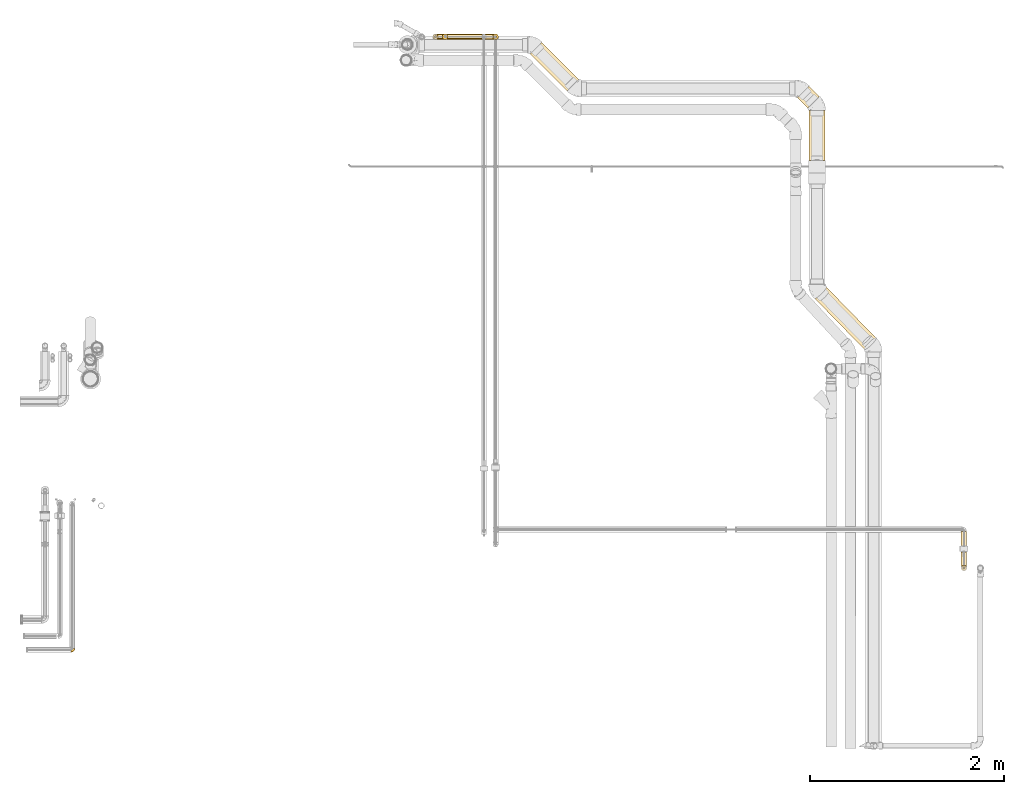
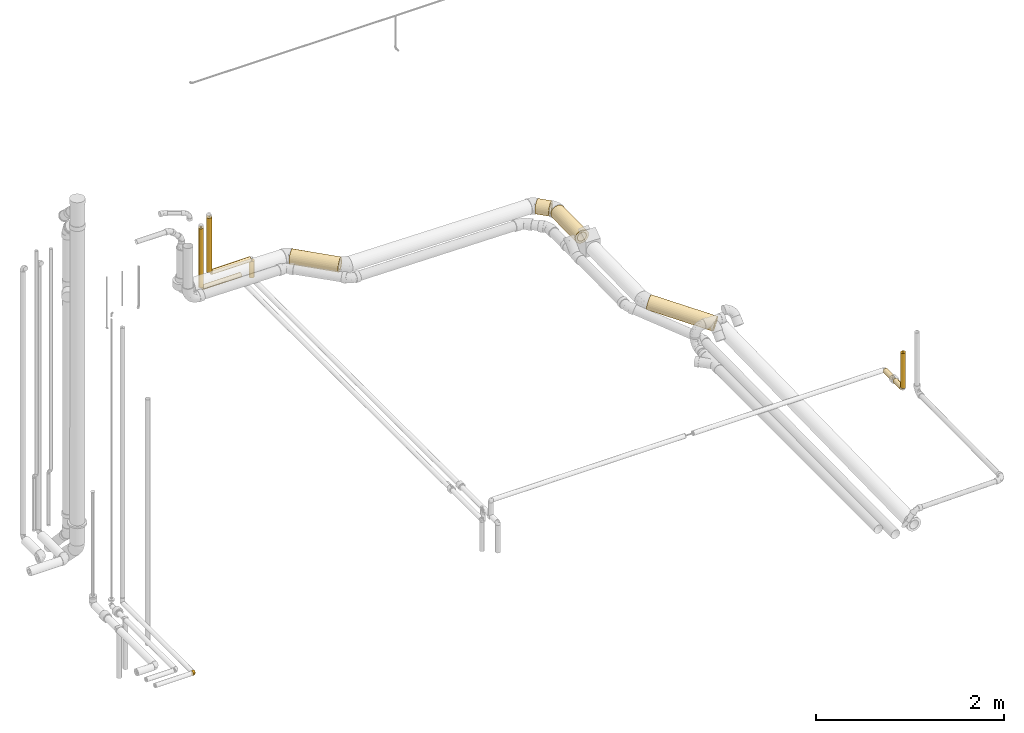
# One storey, part 3 of 78: 13 coverings.
"""IFC2X3 building model written with IfcOpenShell, lengths in millimetres."""

from ifc_helpers import new_model, entity, si_unit, converted_unit, derived_unit, direction, frame, origin_with_axes, origin_2d_with_axis, place, context, subcontext, project, spatial, hollow_circle, extrude, open_shell, surface_model, source, transform, mapped, element, save


model = new_model("IFC2X3")

# Units and contexts
model_context = context("Model", 3, precision=0.01, world=frame((0.0, 4.29681676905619e-09, 0.0)), true_north=direction((4.01073788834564e-13, 1.0)))
plan_context = context("Plan", 3, precision=0.01, world=frame((0.0, 4.29681676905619e-09, 0.0)), true_north=direction((4.01073788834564e-13, 1.0)))
body_context = subcontext(model_context, "Body", "Model", "MODEL_VIEW")
ifc_project = project(units=[converted_unit("PLANEANGLEUNIT", "DEGREE", entity("IfcPositiveLengthMeasure", 0.0174532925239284), si_unit("PLANEANGLEUNIT", "RADIAN"), dimensions=[0, 0, 0, 0, 0, 0, 0]), si_unit("AREAUNIT", "SQUARE_METRE"), si_unit("LENGTHUNIT", "METRE", prefix="MILLI"), si_unit("MASSUNIT", "GRAM", prefix="KILO"), si_unit("POWERUNIT", "WATT"), si_unit("PRESSUREUNIT", "PASCAL"), si_unit("FORCEUNIT", "NEWTON", prefix="KILO"), si_unit("ELECTRICVOLTAGEUNIT", "VOLT"), si_unit("ELECTRICCURRENTUNIT", "AMPERE"), si_unit("THERMODYNAMICTEMPERATUREUNIT", "DEGREE_CELSIUS"), si_unit("TIMEUNIT", "SECOND"), si_unit("VOLUMEUNIT", "CUBIC_METRE"), derived_unit("LINEARVELOCITYUNIT", [(si_unit("LENGTHUNIT", "METRE"), 1), (si_unit("TIMEUNIT", "SECOND"), -1)]), derived_unit("VOLUMETRICFLOWRATEUNIT", [(si_unit("VOLUMEUNIT", "CUBIC_METRE"), 1), (si_unit("TIMEUNIT", "SECOND"), -1)]), derived_unit("THERMALTRANSMITTANCEUNIT", [(si_unit("POWERUNIT", "WATT"), 1), (si_unit("THERMODYNAMICTEMPERATUREUNIT", "KELVIN"), -1), (si_unit("AREAUNIT", "SQUARE_METRE"), -1)]), derived_unit("SOUNDPRESSUREUNIT", [(si_unit("PRESSUREUNIT", "PASCAL"), 1)])], contexts=[model_context, plan_context])

# Site, building, storey
site_placement = place(None, frame((0.0, -4.29681676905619e-09, 0.0), z_axis=(0.0, 0.0, 1.0), x_axis=(1.0, 0.0, 0.0)))
site = spatial("IfcSite", under=ifc_project, at=site_placement, Name="ENGM", CompositionType="ELEMENT")
building_placement = place(site_placement, frame((0.0, 4.29681676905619e-09, 0.0), z_axis=(0.0, 0.0, 1.0), x_axis=(1.0, 0.0, 0.0)))
building = spatial("IfcBuilding", under=site, at=building_placement, Name="TH", CompositionType="ELEMENT")
storey_placement = place(building_placement, frame((0.0, 0.0, 205200.0), z_axis=(0.0, 0.0, 1.0), x_axis=(1.0, 0.0, 0.0)))
storey = spatial("IfcBuildingStorey", under=building, at=storey_placement, Name="Nivå D + 1,2 m", CompositionType="ELEMENT", Elevation=205200.0)

# Coverings
shared_shape_1 = source(origin_with_axes(), body_context, "Body", "SweptSolid", [
    extrude(hollow_circle(Radius=84.0, WallThickness=29.0, at=origin_2d_with_axis()), frame((0.0, 0.0, 0.0), z_axis=(1.0, 0.0, 0.0), x_axis=(0.0, 1.0, 0.0)), (0.0, 0.0, 1.0), 150.9),
])
covering_1_placement = place(storey_placement, frame((903178.90491, 482783.19627, 4374.34289), z_axis=(-0.707197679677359, -0.706966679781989, -0.00833999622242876), x_axis=(0.70696833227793, -0.706964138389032, -0.0199370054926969)))
element("IfcCovering", 1, at=covering_1_placement, inside=storey, Name="BI17T - Cellegummi 13 mm SPV fett", PredefinedType="INSULATION", context=body_context, shape_type="MappedRepresentation", body=[
    mapped(shared_shape_1, transform((0.0, 0.0, 0.0), scale=1.0)),
])
shared_shape_2 = source(origin_with_axes(), body_context, "Body", "SweptSolid", [
    extrude(hollow_circle(Radius=29.0, WallThickness=20.0, at=origin_2d_with_axis()), frame((0.0, 0.0, 0.0), z_axis=(1.0, 0.0, 0.0), x_axis=(0.0, 1.0, 0.0)), (0.0, 0.0, 1.0), 706.1),
])
covering_2_placement = place(storey_placement, frame((899490.50163, 483351.12945, 4478.0), z_axis=(1.0, 0.0, 0.0), x_axis=(0.0, -5.999999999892e-06, 0.999999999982)))
element("IfcCovering", 2, at=covering_2_placement, inside=storey, Name="BI20T - Cellegummi 13 mm kalde rør", PredefinedType="INSULATION", context=body_context, shape_type="MappedRepresentation", body=[
    mapped(shared_shape_2, transform((0.0, 0.0, 0.0), scale=1.0)),
])
shared_shape_3 = source(origin_with_axes(), body_context, "Body", "SweptSolid", [
    extrude(hollow_circle(Radius=27.5, WallThickness=20.0, at=origin_2d_with_axis()), frame((0.0, 0.0, 0.0), z_axis=(1.0, 0.0, 0.0), x_axis=(0.0, 1.0, 0.0)), (0.0, 0.0, 1.0), 767.1),
])
covering_3_placement = place(storey_placement, frame((899390.50163, 483351.12945, 4315.0), z_axis=(0.0, 1.0, 0.0), x_axis=(0.0, 0.0, 1.0)))
element("IfcCovering", 3, at=covering_3_placement, inside=storey, Name="BI16T - Rørskål m/Al.folie - VV 40mm", PredefinedType="INSULATION", context=body_context, shape_type="MappedRepresentation", body=[
    mapped(shared_shape_3, transform((0.0, 0.0, 0.0), scale=1.0)),
])
shared_shape_4 = source(origin_with_axes(), body_context, "Body", "SweptSolid", [
    extrude(hollow_circle(Radius=27.5, WallThickness=20.0, at=origin_2d_with_axis()), frame((0.0, 0.0, 0.0), z_axis=(1.0, 0.0, 0.0), x_axis=(0.0, 1.0, 0.0)), (0.0, 0.0, 1.0), 455.0),
])
covering_4_placement = place(storey_placement, frame((904834.075, 477879.03687, 4880.0), z_axis=(0.0, 1.0, 0.0), x_axis=(0.0, 0.0, -1.0)))
element("IfcCovering", 4, at=covering_4_placement, inside=storey, Name="BI20T - Cellegummi 13 mm kalde rør", PredefinedType="INSULATION", context=body_context, shape_type="MappedRepresentation", body=[
    mapped(shared_shape_4, transform((0.0, 0.0, 0.0), scale=1.0)),
])
shared_shape_5 = source(origin_with_axes(), body_context, "Body", "SweptSolid", [
    extrude(hollow_circle(Radius=84.0, WallThickness=29.0, at=origin_2d_with_axis()), frame((0.0, 0.0, 0.0), z_axis=(1.0, 0.0, 0.0), x_axis=(0.0, 1.0, 0.0)), (0.0, 0.0, 1.0), 514.4),
])
covering_5_placement = place(storey_placement, frame((903320.98069, 482076.74717, 4359.33983000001), z_axis=(0.0, -0.0194310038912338, 0.999811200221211), x_axis=(0.0, 0.999811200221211, 0.0194310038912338)))
element("IfcCovering", 5, at=covering_5_placement, inside=storey, Name="BI17T - Cellegummi 13 mm SPV fett", PredefinedType="INSULATION", context=body_context, shape_type="MappedRepresentation", body=[
    mapped(shared_shape_5, transform((0.0, 0.0, 0.0), scale=1.0)),
])
shared_shape_6 = source(origin_with_axes(), body_context, "Body", "SweptSolid", [
    extrude(hollow_circle(Radius=84.0, WallThickness=29.0, at=origin_2d_with_axis()), frame((0.0, 0.0, 0.0), z_axis=(1.0, 0.0, 0.0), x_axis=(0.0, 1.0, 0.0)), (0.0, 0.0, 1.0), 748.8),
])
covering_6_placement = place(storey_placement, frame((903868.54195, 480189.55019, 4182.52064999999), z_axis=(-0.685282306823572, -0.710451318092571, 0.160147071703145), x_axis=(-0.685282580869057, 0.703479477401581, 0.18842613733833)))
element("IfcCovering", 6, at=covering_6_placement, inside=storey, Name="BI17T - Cellegummi 13 mm SPV fett", PredefinedType="INSULATION", context=body_context, shape_type="MappedRepresentation", body=[
    mapped(shared_shape_6, transform((0.0, 0.0, 0.0), scale=1.0)),
])
shared_shape_7 = source(origin_with_axes(), body_context, "Body", "SweptSolid", [
    extrude(hollow_circle(Radius=84.0, WallThickness=29.0, at=origin_2d_with_axis()), frame((0.0, 0.0, 0.0), z_axis=(1.0, 0.0, 0.0), x_axis=(0.0, 1.0, 0.0)), (0.0, 0.0, 1.0), 537.4),
])
covering_7_placement = place(storey_placement, frame((900426.98966, 483234.01728, 4413.55923000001), z_axis=(0.0113490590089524, -0.0113490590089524, 0.999871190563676), x_axis=(0.707015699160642, -0.707015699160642, -0.0160499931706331)))
element("IfcCovering", 7, at=covering_7_placement, inside=storey, Name="BI17T - Cellegummi 13 mm SPV fett", PredefinedType="INSULATION", context=body_context, shape_type="MappedRepresentation", body=[
    mapped(shared_shape_7, transform((0.0, 0.0, 0.0), scale=1.0)),
])
shared_shape_8 = source(origin_with_axes(), body_context, "Body", "SweptSolid", [
    extrude(hollow_circle(Radius=29.0, WallThickness=20.0, at=origin_2d_with_axis()), frame((0.0, 0.0, 0.0), z_axis=(1.0, 0.0, 0.0), x_axis=(0.0, 1.0, 0.0)), (0.0, 0.0, 1.0), 149.2),
])
for number, where, z_axis, x_axis in (
    (8, (904834.075, 478108.26399, 4410.0), (0.0, 0.0, 1.0), (0.0, 1.0, 0.0)),
    (9, (904834.075, 477897.03687, 4410.0), (0.0, 0.0, 1.0), (0.0, 1.0, 0.0)),
):
    element("IfcCovering", number, at=place(storey_placement, frame(where, z_axis=z_axis, x_axis=x_axis)), inside=storey, Name="BI20T - Cellegummi 13 mm kalde rør", PredefinedType="INSULATION", context=body_context, shape_type="MappedRepresentation", body=[
        mapped(shared_shape_8, transform((0.0, 0.0, 0.0), scale=1.0)),
    ])
shared_shape_9 = source(origin_with_axes(), body_context, "Body", "SurfaceModel", [
    surface_model("IfcShellBasedSurfaceModel", [(21.50356, 15.0, 17.14197), (24.77856, 15.0, 11.92782), (26.81132, 15.0, 6.11583), (-5.16248, 15.0, 27.01109), (0.0, 15.0, 27.5), (-10.14354, 15.0, 25.56088), (-14.76876, 15.0, -23.19771), (-14.76876, 15.0, 23.19771), (11.93614, 15.0, 24.77456), (6.12238, 15.0, 26.80982), (24.77456, 15.0, -11.93614), (21.49702, 15.0, -17.15016), (17.14197, 15.0, -21.50356), (11.92782, 15.0, -24.77856), (-10.15137, 15.0, -25.55777), (-5.17075, 15.0, -27.0095), (6.11583, 15.0, -26.81132), (0.0, 15.0, -27.5), (26.80982, 15.0, -6.12238), (27.5, 15.0, 0.0), (-15.0, 14.76876, 23.19771), (-15.0, 14.76876, -23.19771), (-15.0, 10.14805, -25.55909), (-15.0, -13.75, 23.8157), (-15.0, 0.0, 27.5), (-15.0, 5.16599, -27.01042), (-15.0, 10.14805, 25.55909), (-15.0, 5.16599, 27.01042), (-15.0, -7.11752, 26.56296), (-15.0, 0.0, -27.5), (-15.0, -13.75, -23.8157), (-15.0, -23.8157, -13.75), (-15.0, -19.44544, -19.44544), (-15.0, -27.5, 0.0), (-15.0, -26.56296, -7.11752), (-15.0, -19.44544, 19.44544), (-15.0, -23.8157, 13.75), (-15.0, -26.56296, 7.11752), (-15.0, -7.11752, -26.56296), (-14.83649, 14.83649, 23.19771), (-14.83649, 14.83649, -23.19771), (-9.83314, 9.83084, -26.40253), (-4.3934, 4.3934, -27.5), (-12.83947, 12.05061, -25.05125), (-4.48793, -24.01534, -10.52379), (-11.98334, 1.24954, -27.5), (-9.37684, -9.89667, -25.40669), (-8.82333, -4.41336, -26.97014), (-7.04505, 3.29505, -27.5), (-5.1718, -3.02029, -26.93903), (-9.6967, 2.1967, -27.5), (24.65994, 4.7804, -9.08643), (1.06278, -23.77897, -5.3526), (6.25, -21.80608, 0.0), (-4.375, -24.65304, 0.0), (1.54868, -12.7037, -21.40086), (4.32424, -4.93171, -24.3597), (9.55297, -9.15335, -19.44914), (-6.74238, -15.64799, -21.81722), (-1.24954, 11.98334, -27.5), (-8.5236, -21.24312, -16.74094), (-0.77018, -18.95614, -16.74094), (8.31737, 8.99221, -25.95811), (15.40258, -1.18426, -19.44893), (18.35244, 6.40655, -19.44914), (20.06511, -0.36118, -14.63519), (12.13715, 3.11198, -23.28745), (14.08693, 9.36968, -23.28745), (14.85125, -14.38152, -5.78233), (21.80608, -6.25, 0.0), (14.02804, -14.02804, 0.0), (4.36843, 2.94628, -26.36681), (-1.36459, -1.6148, -26.72233), (25.07086, 5.93431, 0.0), (20.29431, -6.45586, -8.02095), (22.58459, 7.72498, -14.63519), (-2.49909, 8.96667, -27.5), (8.33474, -14.73903, -15.37407), (2.78643, -21.46003, -10.12782), (-7.07519, -26.25186, -5.1881), (15.0344, -9.43108, -13.92095), (10.00026, -3.0542, -22.48144), (8.16542, -20.09043, -4.96929), (-3.21442, -7.63988, -25.40669), (9.46251, -17.5384, -9.76399), (-4.49126, -24.01624, 10.52379), (-7.07517, -26.25186, 5.18812), (2.7851, -21.45964, 10.13017), (-0.77879, -18.95975, 16.74094), (-8.52869, -21.24403, 16.74094), (10.00623, -3.06404, 22.47397), (4.36772, 2.93777, 26.36566), (4.32909, -4.93518, 24.35662), (14.09461, 9.36543, 23.28221), (18.35902, 6.40238, 19.44173), (17.15016, 15.0, 21.49702), (-1.36241, -1.61745, 26.7215), (-5.47085, -2.34739, 27.07921), (-3.21442, -7.63988, 25.40669), (15.40846, -1.18809, 19.44194), (12.14263, 3.10369, 23.28221), (-6.745, -15.64869, 21.81722), (8.32409, 8.9881, 25.95548), (20.06721, -0.36943, 14.62684), (22.58901, 7.7202, 14.62684), (-9.37684, -9.89667, 25.40669), (-2.49909, 8.96667, 27.5), (1.54508, -12.70941, 21.39839), (20.30092, -6.44893, 8.01422), (24.66205, 4.77802, 9.0789), (-11.98334, 1.24954, 27.5), (15.03275, -9.44266, 13.91067), (-8.82333, -4.41336, 26.97014), (-1.24954, 11.98334, 27.5), (-9.6967, 2.1967, 27.5), (-7.04505, 3.29505, 27.5), (1.06272, -23.77883, 5.35336), (9.46283, -17.53693, 9.7666), (8.16718, -20.08904, 4.97031), (14.85491, -14.37711, 5.78458), (8.34277, -14.73848, 15.36735), (-4.3934, 4.3934, 27.5), (9.54904, -9.16792, 19.44173), (-9.83314, 9.83084, 26.40253), (-8.43135, 6.03295, 27.22427)], [open_shell([[[0, 1, 2]], [[3, 4, 5]], [[6, 5, 4]], [[7, 5, 6]], [[8, 4, 9]], [[6, 10, 11]], [[10, 6, 0]], [[11, 12, 13]], [[14, 6, 15]], [[13, 6, 11]], [[16, 6, 13]], [[17, 15, 6]], [[17, 6, 16]], [[18, 2, 19]], [[20, 21, 22]], [[23, 24, 22]], [[22, 25, 23]], [[26, 20, 24]], [[26, 24, 27]], [[20, 22, 24]], [[24, 23, 28]], [[25, 29, 23]], [[29, 30, 23]], [[23, 30, 31]], [[31, 30, 32]], [[33, 31, 34]], [[35, 23, 36]], [[36, 33, 37]], [[36, 23, 31]], [[31, 33, 36]], [[30, 29, 38]], [[21, 20, 39]], [[40, 21, 39]], [[7, 6, 39]], [[40, 39, 6]], [[41, 25, 22]], [[29, 25, 42]], [[42, 25, 41]], [[41, 22, 43]], [[21, 40, 43]], [[40, 6, 14]], [[17, 42, 15]], [[14, 43, 40]], [[21, 43, 22]], [[14, 15, 41]], [[14, 41, 43]], [[42, 41, 15]], [[31, 44, 34]], [[38, 29, 45]], [[46, 30, 38]], [[38, 47, 46]], [[48, 49, 50]], [[10, 18, 51]], [[52, 53, 54]], [[55, 56, 57]], [[30, 58, 32]], [[16, 59, 17]], [[32, 60, 31]], [[31, 60, 44]], [[58, 61, 60]], [[13, 62, 16]], [[59, 16, 62]], [[63, 64, 65]], [[64, 12, 11]], [[66, 67, 64]], [[68, 69, 70]], [[13, 67, 62]], [[71, 56, 72]], [[18, 19, 73]], [[66, 64, 63]], [[65, 51, 74]], [[11, 10, 75]], [[61, 58, 55]], [[51, 69, 74]], [[75, 64, 11]], [[51, 75, 10]], [[65, 75, 51]], [[71, 76, 62]], [[67, 13, 12]], [[18, 73, 51]], [[71, 62, 66]], [[69, 51, 73]], [[46, 58, 30]], [[55, 57, 77]], [[61, 77, 78]], [[44, 52, 79]], [[57, 80, 77]], [[80, 65, 74]], [[63, 81, 66]], [[42, 76, 71]], [[70, 82, 68]], [[80, 57, 63]], [[52, 82, 53]], [[34, 79, 33]], [[64, 75, 65]], [[64, 67, 12]], [[62, 67, 66]], [[45, 47, 38]], [[58, 46, 83]], [[58, 83, 55]], [[56, 55, 83]], [[83, 47, 49]], [[81, 71, 66]], [[68, 80, 74]], [[82, 70, 53]], [[77, 80, 84]], [[45, 50, 47]], [[42, 72, 48]], [[83, 46, 47]], [[72, 83, 49]], [[71, 72, 42]], [[83, 72, 56]], [[79, 52, 54]], [[78, 52, 44]], [[33, 79, 54]], [[44, 79, 34]], [[80, 63, 65]], [[81, 57, 56]], [[57, 81, 63]], [[71, 81, 56]], [[78, 77, 84]], [[55, 77, 61]], [[58, 60, 32]], [[44, 60, 61]], [[61, 78, 44]], [[82, 78, 84]], [[78, 82, 52]], [[82, 84, 68]], [[80, 68, 84]], [[69, 68, 74]], [[62, 76, 59]], [[50, 49, 47]], [[48, 72, 49]], [[36, 37, 85]], [[33, 54, 86]], [[85, 87, 88]], [[85, 88, 89]], [[90, 91, 92]], [[93, 94, 95]], [[96, 97, 98]], [[99, 94, 100]], [[35, 101, 23]], [[100, 102, 91]], [[94, 103, 104]], [[105, 28, 23]], [[91, 102, 106]], [[88, 107, 101]], [[108, 69, 109]], [[28, 110, 24]], [[94, 0, 95]], [[73, 109, 69]], [[111, 108, 103]], [[109, 2, 1]], [[73, 19, 2]], [[35, 89, 101]], [[8, 93, 95]], [[110, 28, 112]], [[99, 103, 94]], [[35, 36, 89]], [[102, 8, 9]], [[92, 98, 107]], [[104, 109, 1]], [[93, 102, 100]], [[9, 113, 102]], [[1, 0, 104]], [[109, 103, 108]], [[114, 97, 115]], [[73, 2, 109]], [[54, 53, 116]], [[116, 87, 85]], [[117, 118, 119]], [[120, 117, 111]], [[88, 120, 107]], [[105, 101, 98]], [[106, 121, 91]], [[96, 115, 97]], [[103, 99, 111]], [[70, 119, 118]], [[54, 116, 86]], [[94, 104, 0]], [[109, 104, 103]], [[102, 93, 8]], [[94, 93, 100]], [[101, 105, 23]], [[112, 28, 105]], [[92, 107, 122]], [[108, 119, 69]], [[98, 101, 107]], [[122, 99, 90]], [[96, 91, 121]], [[120, 111, 122]], [[119, 111, 117]], [[110, 112, 114]], [[105, 98, 112]], [[96, 98, 92]], [[115, 96, 121]], [[112, 97, 114]], [[91, 96, 92]], [[118, 116, 53]], [[86, 85, 37]], [[85, 86, 116]], [[33, 86, 37]], [[90, 99, 100]], [[111, 99, 122]], [[91, 90, 100]], [[122, 90, 92]], [[107, 120, 122]], [[87, 120, 88]], [[85, 89, 36]], [[101, 89, 88]], [[70, 118, 53]], [[87, 118, 117]], [[69, 119, 70]], [[111, 119, 108]], [[118, 87, 116]], [[87, 117, 120]], [[113, 9, 4]], [[113, 106, 102]], [[98, 97, 112]], [[123, 26, 27]], [[20, 26, 39]], [[39, 26, 123]], [[123, 27, 124]], [[24, 121, 124]], [[121, 4, 3]], [[7, 39, 5]], [[3, 124, 121]], [[24, 124, 27]], [[3, 5, 123]], [[3, 123, 124]], [[39, 123, 5]], [[8, 95, 0]], [[8, 0, 4]], [[4, 0, 6]], [[0, 2, 10]], [[18, 10, 2]]])]),
])
covering_8_placement = place(storey_placement, frame((895651.15, 477037.61197, 4450.0), z_axis=(0.0, 0.0, 1.0), x_axis=(1.0, 0.0, 0.0)))
element("IfcCovering", 10, at=covering_8_placement, inside=storey, Name="Rørskål m/Al.folje - Varme 55 (uisolert oppheng)", PredefinedType="INSULATION", context=body_context, shape_type="MappedRepresentation", body=[
    mapped(shared_shape_9, transform((0.0, 0.0, 0.0), scale=1.0)),
])
shared_shape_10 = source(origin_with_axes(), body_context, "Body", "SweptSolid", [
    extrude(hollow_circle(Radius=29.0, WallThickness=20.0, at=origin_2d_with_axis()), frame((0.0, 0.0, 0.0), z_axis=(1.0, 0.0, 0.0), x_axis=(0.0, 1.0, 0.0)), (0.0, 0.0, 1.0), 484.0),
])
covering_9_placement = place(storey_placement, frame((899992.50163, 483351.12927, 4460.0), z_axis=(0.0, 0.0, 1.0), x_axis=(-1.0, 0.0, 0.0)))
element("IfcCovering", 11, at=covering_9_placement, inside=storey, Name="BI20T - Cellegummi 13 mm kalde rør", PredefinedType="INSULATION", context=body_context, shape_type="MappedRepresentation", body=[
    mapped(shared_shape_10, transform((0.0, 0.0, 0.0), scale=1.0)),
])
shared_shape_11 = source(origin_with_axes(), body_context, "Body", "SweptSolid", [
    extrude(hollow_circle(Radius=27.5, WallThickness=20.0, at=origin_2d_with_axis()), frame((0.0, 0.0, 0.0), z_axis=(1.0, 0.0, 0.0), x_axis=(0.0, 1.0, 0.0)), (0.0, 0.0, 1.0), 470.0),
])
covering_10_placement = place(storey_placement, frame((899405.50163, 483351.12945, 4300.0), z_axis=(0.0, 0.0, 1.0), x_axis=(1.0, 0.0, 0.0)))
element("IfcCovering", 12, at=covering_10_placement, inside=storey, Name="BI16T - Rørskål m/Al.folie - VV 40mm", PredefinedType="INSULATION", context=body_context, shape_type="MappedRepresentation", body=[
    mapped(shared_shape_11, transform((0.0, 0.0, 0.0), scale=1.0)),
])
shared_shape_12 = source(origin_with_axes(), body_context, "Body", "SweptSolid", [
    extrude(hollow_circle(Radius=29.0, WallThickness=20.0, at=origin_2d_with_axis()), frame((0.0, 0.0, 0.0), z_axis=(1.0, 0.0, 0.0), x_axis=(0.0, 1.0, 0.0)), (0.0, 0.0, 1.0), 214.0),
])
covering_11_placement = place(storey_placement, frame((900010.50163, 483351.12926, 4228.0), z_axis=(1.0, 0.0, 0.0), x_axis=(0.0, 0.0, 1.0)))
element("IfcCovering", 13, at=covering_11_placement, inside=storey, Name="BI20T - Cellegummi 13 mm kalde rør", PredefinedType="INSULATION", context=body_context, shape_type="MappedRepresentation", body=[
    mapped(shared_shape_12, transform((0.0, 0.0, 0.0), scale=1.0)),
])

save(model, "model.ifc")
